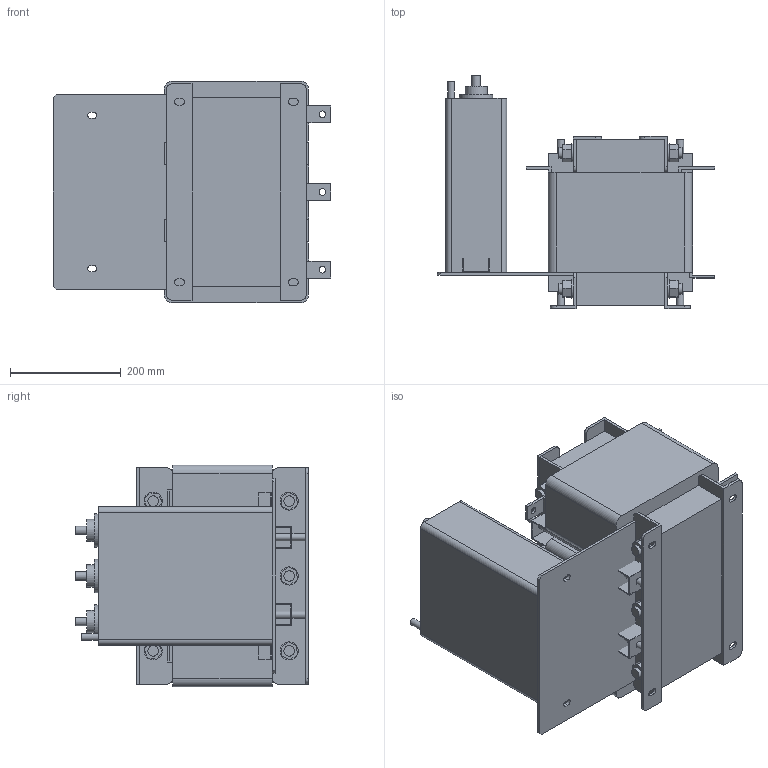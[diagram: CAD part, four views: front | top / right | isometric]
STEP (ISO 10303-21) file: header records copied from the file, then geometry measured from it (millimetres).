
FILE_DESCRIPTION(/* description */ (''),/* implementation_level */ '2;1');
FILE_NAME(/* name */ 'Sin-T6-200.stp',/* time_stamp */ '2025-02-25T11:03:53+04:00',/* author */ ('Лео'),/* organization */ (''),/* preprocessor_version */ 'ST-DEVELOPER v19.2',/* originating_system */ 'Autodesk Inventor 2024',/* authorisation */ '');
FILE_SCHEMA (('AUTOMOTIVE_DESIGN { 1 0 10303 214 3 1 1 }'));
Length unit declared in the file: millimetre
Products named in the file (1): Sin-T6-200 новый
Bounding box: 500 x 420 x 400 mm (x, y, z)
Volume: 33773813.9 mm3; surface area: 1808723.1 mm2
Topology: 26 solids, 26 shells, 557 faces, 1237 edges, 774 vertices
Faces by surface type: plane 450, cylinder 107
Full cylindrical faces by diameter (mm): 12 x10, 13 x12, 15 x3, 19 x12, 32.562 x12, 40 x3, 60 x3
Entity records: 15227 total; most frequent: DIRECTION 2639, CARTESIAN_POINT 2569, ORIENTED_EDGE 2474, EDGE_CURVE 1237, LINE 951, VECTOR 951, AXIS2_PLACEMENT_3D 844, VERTEX_POINT 774
